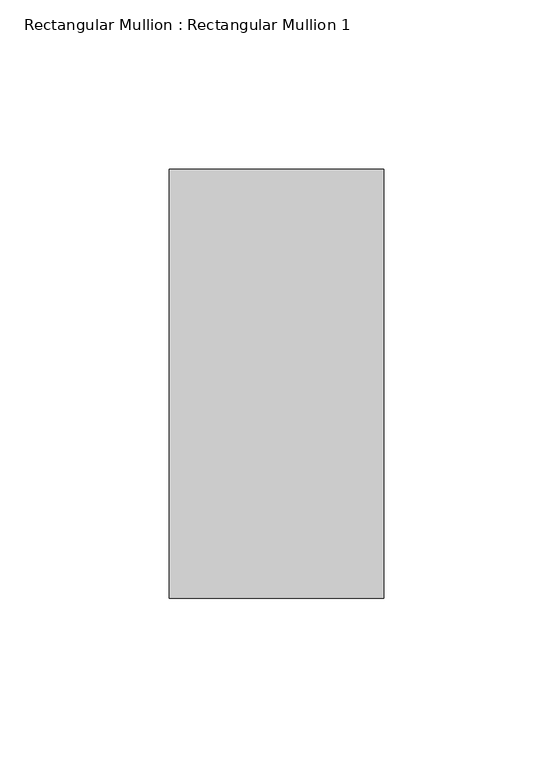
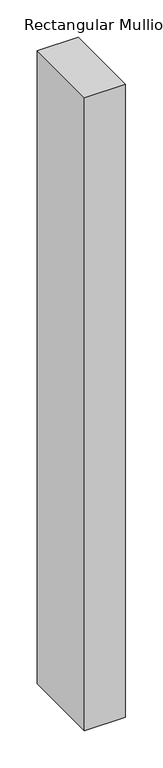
"""IFC4 building model written with IfcOpenShell, lengths in millimetres: member geometry, Rectangular Mullion : Rectangular Mullion 1."""

from ifc_helpers import new_model, si_unit, frame, origin, place, context, project, spatial, polyline, outline, extrude, source, transform, mapped, element, save


def rectangular_mullion_rectangular_mullion_1_09fd8405(model_context):
    return source(origin(), model_context, "Body", "SweptSolid", [
        extrude(outline(polyline([(0.0, 63.5), (0.0, -63.5), (-63.5, -63.5), (-63.5, 63.5), (0.0, 63.5)])), frame((0.0, 0.0, -1038.4166668), z_axis=(0.0, 0.0, 1.0), x_axis=(1.0, 0.0, 0.0)), (0.0, 0.0, 1.0), 1038.4166668),
    ])


if __name__ == "__main__":
    model = new_model("IFC4")
    model_context = context("Model", 3, world=origin())
    ifc_project = project(units=[si_unit("LENGTHUNIT", "METRE", prefix="MILLI")], contexts=[model_context])
    site = spatial("IfcSite", under=ifc_project)
    building = spatial("IfcBuilding", under=site)
    placement = place(None, origin())
    rectangular_mullion_rectangular_mullion_1_shape = rectangular_mullion_rectangular_mullion_1_09fd8405(model_context)
    element("IfcMember", 1, ObjectType="Rectangular Mullion : Rectangular Mullion 1", at=placement, inside=building, context=model_context, shape_type="MappedRepresentation", body=[
        mapped(rectangular_mullion_rectangular_mullion_1_shape, transform((0.0, 0.0, 0.0), x_axis=(1.0, 0.0, 0.0), y_axis=(0.0, 1.0, 0.0), z_axis=(0.0, 0.0, 1.0))),
    ])
    save(model, "model.ifc")
